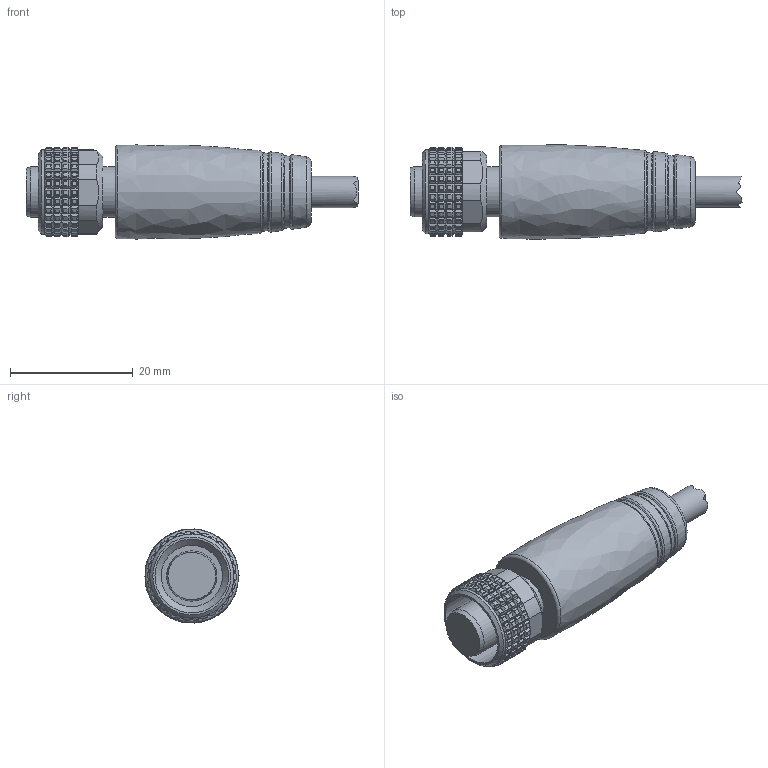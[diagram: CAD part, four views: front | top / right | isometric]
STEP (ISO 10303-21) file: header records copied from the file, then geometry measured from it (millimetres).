
FILE_DESCRIPTION((''),'2;1');
FILE_NAME('C:\Users\enrico\Desktop\Ale\Sito\AUTOMAZIONE_2020\FOTO & STEP Connettori circolari per sensori e attuatori\Singola testa\Step\M12 Fe ass 8 poli.stp','2020-06-29T08:51:21',('Tecnico2'),(''),'Autodesk Inventor 2012','Autodesk Inventor 2012','');
FILE_SCHEMA(('AUTOMOTIVE_DESIGN { 1 0 10303 214 1 1 1 1 }'));
Length unit declared in the file: millimetre
Products named in the file (3): C12F8A2; ghiera M12_FE_NON TECNICO_
Assembly tree (2 placements, depth 2):
  C12F8A2
    C12F8A2
    ghiera M12_FE_NON TECNICO_
Bounding box: 54.08 x 15.33 x 15.33 mm (x, y, z)
Volume: 6410.2 mm3; surface area: 3236.7 mm2
Topology: 2 solids, 2 shells, 2208 faces, 4999 edges, 2797 vertices
Faces by surface type: cylinder 965, plane 744, sphere 480, torus 10, bspline 5, cone 4
Full cylindrical faces by diameter (mm): 5.1 x1, 8.2 x1, 12 x1, 13.7 x1
Entity records: 60589 total; most frequent: DIRECTION 11678, CARTESIAN_POINT 10116, ORIENTED_EDGE 9940, EDGE_CURVE 4970, AXIS2_PLACEMENT_3D 4507, VERTEX_POINT 2792, VECTOR 2664, LINE 2664
